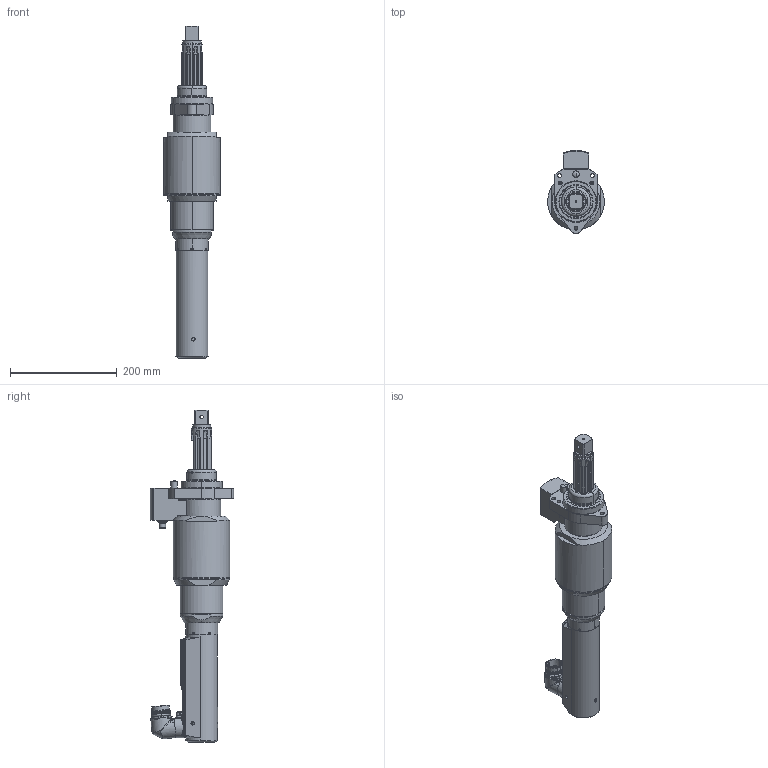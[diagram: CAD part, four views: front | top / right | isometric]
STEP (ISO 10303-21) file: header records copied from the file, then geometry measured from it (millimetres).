
FILE_DESCRIPTION((''),'2;1');
FILE_NAME('6151660370','2016-06-06T',('greextsd'),(''),'CREO PARAMETRIC BY PTC INC, 2016050','CREO PARAMETRIC BY PTC INC, 2016050','');
FILE_SCHEMA(('AUTOMOTIVE_DESIGN { 1 0 10303 214 1 1 1 1 }'));
Products named in the file (1): 6151660370
Bounding box: 106 x 155.96 x 622.35 mm (x, y, z)
Volume: 2027879.2 mm3; surface area: 407181.9 mm2
Topology: 3 solids, 3 shells, 1699 faces, 4634 edges, 2953 vertices
Faces by surface type: plane 696, cylinder 531, cone 245, extrusion 99, torus 88, sphere 28, bspline 12
Entity records: 79470 total; most frequent: CARTESIAN_POINT 26196, ORIENTED_EDGE 9156, DIRECTION 8409, EDGE_CURVE 4578, AXIS2_PLACEMENT_3D 3197, VERTEX_POINT 2953, VECTOR 2015, LINE 1916
